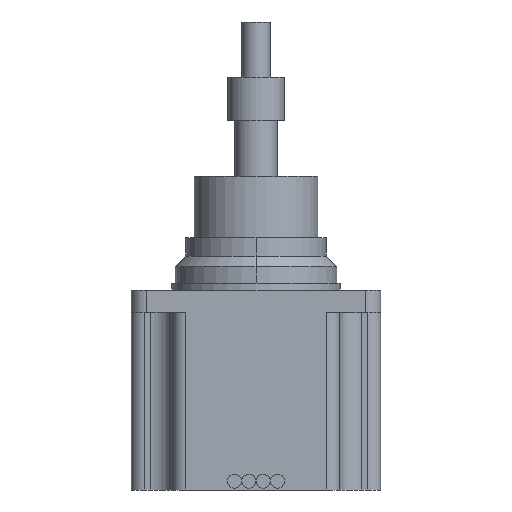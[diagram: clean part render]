
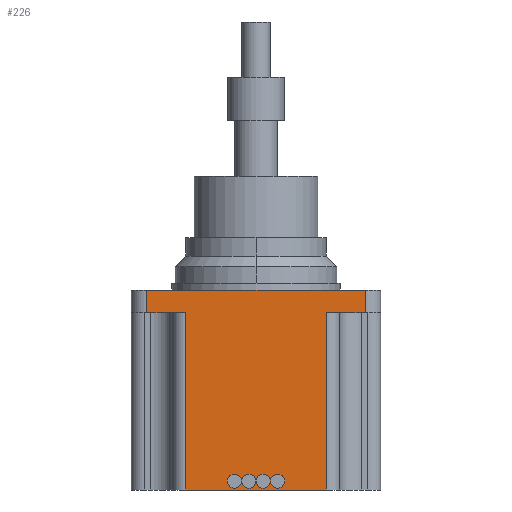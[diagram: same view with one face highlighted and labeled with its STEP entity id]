
A CAD part, front view. The second image highlights one B-rep face of the part: STEP entity #226.
In plain terms, the highlighted planar face has unit normal (0, -1, 0).
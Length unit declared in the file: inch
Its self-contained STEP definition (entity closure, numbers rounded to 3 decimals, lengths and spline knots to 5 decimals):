
#16 = LINE ( 'NONE', #3650, #1397 ) ;
#34 = EDGE_CURVE ( 'NONE', #861, #1085, #3443, .T. ) ;
#73 = VERTEX_POINT ( 'NONE', #1702 ) ;
#111 = ORIENTED_EDGE ( 'NONE', *, *, #1658, .F. ) ;
#164 = LINE ( 'NONE', #2047, #3932 ) ;
#174 = ORIENTED_EDGE ( 'NONE', *, *, #2220, .F. ) ;
#208 = ORIENTED_EDGE ( 'NONE', *, *, #34, .T. ) ;
#213 = CIRCLE ( 'NONE', #3816, 0.0625 ) ;
#226 = ADVANCED_FACE ( 'NONE', ( #1788, #3900, #3009, #816, #894 ), #1769, .T. ) ;
#227 = DIRECTION ( 'NONE',  ( 0., -1., 0. ) ) ;
#269 = DIRECTION ( 'NONE',  ( 0., -1., 0. ) ) ;
#281 = LINE ( 'NONE', #2768, #1536 ) ;
#319 = DIRECTION ( 'NONE',  ( 0., 0., -1. ) ) ;
#357 = EDGE_CURVE ( 'NONE', #2982, #3276, #3270, .T. ) ;
#389 = AXIS2_PLACEMENT_3D ( 'NONE', #1163, #1778, #2365 ) ;
#411 = DIRECTION ( 'NONE',  ( 0., 0., 1. ) ) ;
#428 = ORIENTED_EDGE ( 'NONE', *, *, #1790, .T. ) ;
#432 = EDGE_LOOP ( 'NONE', ( #2562, #2524 ) ) ;
#492 = EDGE_CURVE ( 'NONE', #880, #985, #1698, .T. ) ;
#512 = VERTEX_POINT ( 'NONE', #2327 ) ;
#518 = DIRECTION ( 'NONE',  ( 0., -1., 0. ) ) ;
#526 = CARTESIAN_POINT ( 'NONE',  ( 0.06398, -1.11024, -1.70126 ) ) ;
#548 = CARTESIAN_POINT ( 'NONE',  ( -0.06398, -1.11024, -1.70126 ) ) ;
#572 = EDGE_CURVE ( 'NONE', #3276, #2982, #1276, .T. ) ;
#574 = DIRECTION ( 'NONE',  ( 0., -1., 0. ) ) ;
#679 = CARTESIAN_POINT ( 'NONE',  ( -1.11024, -1.11024, -1.78 ) ) ;
#718 = CIRCLE ( 'NONE', #852, 0.0625 ) ;
#816 = FACE_BOUND ( 'NONE', #432, .T. ) ;
#836 = DIRECTION ( 'NONE',  ( 0., 0., -1. ) ) ;
#844 = VERTEX_POINT ( 'NONE', #1827 ) ;
#852 = AXIS2_PLACEMENT_3D ( 'NONE', #853, #269, #1424 ) ;
#853 = CARTESIAN_POINT ( 'NONE',  ( 0.19193, -1.11024, -1.70126 ) ) ;
#861 = VERTEX_POINT ( 'NONE', #1880 ) ;
#871 = CARTESIAN_POINT ( 'NONE',  ( 0.19193, -1.11024, -1.70126 ) ) ;
#880 = VERTEX_POINT ( 'NONE', #3755 ) ;
#894 = FACE_BOUND ( 'NONE', #2738, .T. ) ;
#901 = ORIENTED_EDGE ( 'NONE', *, *, #3784, .F. ) ;
#937 = VERTEX_POINT ( 'NONE', #2297 ) ;
#957 = DIRECTION ( 'NONE',  ( 0., 0., -1. ) ) ;
#975 = EDGE_CURVE ( 'NONE', #1065, #861, #16, .T. ) ;
#985 = VERTEX_POINT ( 'NONE', #3368 ) ;
#1009 = VERTEX_POINT ( 'NONE', #1517 ) ;
#1047 = VERTEX_POINT ( 'NONE', #3426 ) ;
#1063 = AXIS2_PLACEMENT_3D ( 'NONE', #3136, #3727, #3114 ) ;
#1065 = VERTEX_POINT ( 'NONE', #3498 ) ;
#1085 = VERTEX_POINT ( 'NONE', #3721 ) ;
#1109 = EDGE_CURVE ( 'NONE', #1876, #3705, #3282, .T. ) ;
#1146 = CARTESIAN_POINT ( 'NONE',  ( -0.97244, -1.11024, -1.78 ) ) ;
#1163 = CARTESIAN_POINT ( 'NONE',  ( -0.19193, -1.11024, -1.70126 ) ) ;
#1246 = EDGE_CURVE ( 'NONE', #937, #512, #3685, .T. ) ;
#1247 = ORIENTED_EDGE ( 'NONE', *, *, #1430, .F. ) ;
#1276 = CIRCLE ( 'NONE', #2187, 0.0625 ) ;
#1354 = ORIENTED_EDGE ( 'NONE', *, *, #357, .F. ) ;
#1397 = VECTOR ( 'NONE', #319, 39.37008 ) ;
#1424 = DIRECTION ( 'NONE',  ( 0., 0., -1. ) ) ;
#1430 = EDGE_CURVE ( 'NONE', #1009, #3259, #2828, .T. ) ;
#1432 = DIRECTION ( 'NONE',  ( 0., -1., 0. ) ) ;
#1452 = AXIS2_PLACEMENT_3D ( 'NONE', #526, #1432, #836 ) ;
#1470 = ORIENTED_EDGE ( 'NONE', *, *, #572, .F. ) ;
#1496 = CIRCLE ( 'NONE', #2598, 0.0625 ) ;
#1517 = CARTESIAN_POINT ( 'NONE',  ( 0.97244, -1.11024, -0.2 ) ) ;
#1536 = VECTOR ( 'NONE', #2426, 39.37008 ) ;
#1554 = AXIS2_PLACEMENT_3D ( 'NONE', #2367, #518, #3329 ) ;
#1584 = ORIENTED_EDGE ( 'NONE', *, *, #492, .T. ) ;
#1658 = EDGE_CURVE ( 'NONE', #880, #73, #281, .T. ) ;
#1698 = LINE ( 'NONE', #1146, #2124 ) ;
#1702 = CARTESIAN_POINT ( 'NONE',  ( 0.97244, -1.11024, 0. ) ) ;
#1769 = PLANE ( 'NONE',  #1063 ) ;
#1778 = DIRECTION ( 'NONE',  ( 0., -1., 0. ) ) ;
#1783 = VECTOR ( 'NONE', #3141, 39.37008 ) ;
#1785 = DIRECTION ( 'NONE',  ( 0., 0., -1. ) ) ;
#1788 = FACE_BOUND ( 'NONE', #2580, .T. ) ;
#1790 = EDGE_CURVE ( 'NONE', #1085, #3259, #2147, .T. ) ;
#1808 = VECTOR ( 'NONE', #411, 39.37008 ) ;
#1827 = CARTESIAN_POINT ( 'NONE',  ( 0.19193, -1.11024, -1.76376 ) ) ;
#1876 = VERTEX_POINT ( 'NONE', #3220 ) ;
#1880 = CARTESIAN_POINT ( 'NONE',  ( -0.62613, -1.11024, -1.78 ) ) ;
#1899 = CARTESIAN_POINT ( 'NONE',  ( 1.11024, -1.11024, -0.2 ) ) ;
#1961 = EDGE_CURVE ( 'NONE', #1009, #73, #3195, .T. ) ;
#2047 = CARTESIAN_POINT ( 'NONE',  ( -1.11024, -1.11024, -0.2 ) ) ;
#2117 = EDGE_LOOP ( 'NONE', ( #174, #3429, #208, #428, #1247, #3889, #111, #1584 ) ) ;
#2118 = DIRECTION ( 'NONE',  ( 0., -1., 0. ) ) ;
#2124 = VECTOR ( 'NONE', #2346, 39.37008 ) ;
#2127 = ORIENTED_EDGE ( 'NONE', *, *, #1246, .F. ) ;
#2138 = CARTESIAN_POINT ( 'NONE',  ( -0.06398, -1.11024, -1.63876 ) ) ;
#2147 = LINE ( 'NONE', #3371, #1808 ) ;
#2187 = AXIS2_PLACEMENT_3D ( 'NONE', #3684, #3396, #3331 ) ;
#2220 = EDGE_CURVE ( 'NONE', #1065, #985, #164, .T. ) ;
#2250 = CARTESIAN_POINT ( 'NONE',  ( 0.62613, -1.11024, -0.2 ) ) ;
#2274 = CIRCLE ( 'NONE', #1554, 0.0625 ) ;
#2297 = CARTESIAN_POINT ( 'NONE',  ( -0.19193, -1.11024, -1.76376 ) ) ;
#2327 = CARTESIAN_POINT ( 'NONE',  ( -0.19193, -1.11024, -1.63876 ) ) ;
#2346 = DIRECTION ( 'NONE',  ( 0., 0., -1. ) ) ;
#2365 = DIRECTION ( 'NONE',  ( 0., 0., -1. ) ) ;
#2367 = CARTESIAN_POINT ( 'NONE',  ( -0.19193, -1.11024, -1.70126 ) ) ;
#2426 = DIRECTION ( 'NONE',  ( 1., 0., 0. ) ) ;
#2450 = VECTOR ( 'NONE', #3468, 39.37008 ) ;
#2490 = ORIENTED_EDGE ( 'NONE', *, *, #2967, .F. ) ;
#2524 = ORIENTED_EDGE ( 'NONE', *, *, #1109, .F. ) ;
#2562 = ORIENTED_EDGE ( 'NONE', *, *, #3531, .F. ) ;
#2580 = EDGE_LOOP ( 'NONE', ( #1354, #1470 ) ) ;
#2594 = CARTESIAN_POINT ( 'NONE',  ( 0.97244, -1.11024, -1.78 ) ) ;
#2598 = AXIS2_PLACEMENT_3D ( 'NONE', #871, #2118, #3026 ) ;
#2602 = EDGE_LOOP ( 'NONE', ( #2490, #2127 ) ) ;
#2735 = CARTESIAN_POINT ( 'NONE',  ( 0.06398, -1.11024, -1.63876 ) ) ;
#2738 = EDGE_LOOP ( 'NONE', ( #901, #2944 ) ) ;
#2768 = CARTESIAN_POINT ( 'NONE',  ( -1.11024, -1.11024, 0. ) ) ;
#2789 = CARTESIAN_POINT ( 'NONE',  ( -0.06398, -1.11024, -1.70126 ) ) ;
#2828 = LINE ( 'NONE', #1899, #2450 ) ;
#2944 = ORIENTED_EDGE ( 'NONE', *, *, #2947, .F. ) ;
#2947 = EDGE_CURVE ( 'NONE', #844, #1047, #718, .T. ) ;
#2967 = EDGE_CURVE ( 'NONE', #512, #937, #2274, .T. ) ;
#2982 = VERTEX_POINT ( 'NONE', #2735 ) ;
#3009 = FACE_OUTER_BOUND ( 'NONE', #2117, .T. ) ;
#3026 = DIRECTION ( 'NONE',  ( 0., 0., -1. ) ) ;
#3114 = DIRECTION ( 'NONE',  ( 0., 0., -1. ) ) ;
#3136 = CARTESIAN_POINT ( 'NONE',  ( -1.11024, -1.11024, -1.78 ) ) ;
#3141 = DIRECTION ( 'NONE',  ( 1., 0., 0. ) ) ;
#3195 = LINE ( 'NONE', #2594, #3859 ) ;
#3220 = CARTESIAN_POINT ( 'NONE',  ( -0.06398, -1.11024, -1.76376 ) ) ;
#3259 = VERTEX_POINT ( 'NONE', #2250 ) ;
#3270 = CIRCLE ( 'NONE', #1452, 0.0625 ) ;
#3276 = VERTEX_POINT ( 'NONE', #3891 ) ;
#3282 = CIRCLE ( 'NONE', #3791, 0.0625 ) ;
#3329 = DIRECTION ( 'NONE',  ( 0., 0., -1. ) ) ;
#3331 = DIRECTION ( 'NONE',  ( 0., 0., -1. ) ) ;
#3368 = CARTESIAN_POINT ( 'NONE',  ( -0.97244, -1.11024, -0.2 ) ) ;
#3371 = CARTESIAN_POINT ( 'NONE',  ( 0.62613, -1.11024, -0.2 ) ) ;
#3396 = DIRECTION ( 'NONE',  ( 0., -1., 0. ) ) ;
#3426 = CARTESIAN_POINT ( 'NONE',  ( 0.19193, -1.11024, -1.63876 ) ) ;
#3429 = ORIENTED_EDGE ( 'NONE', *, *, #975, .T. ) ;
#3443 = LINE ( 'NONE', #679, #1783 ) ;
#3468 = DIRECTION ( 'NONE',  ( -1., 0., 0. ) ) ;
#3498 = CARTESIAN_POINT ( 'NONE',  ( -0.62613, -1.11024, -0.2 ) ) ;
#3514 = DIRECTION ( 'NONE',  ( -1., 0., 0. ) ) ;
#3531 = EDGE_CURVE ( 'NONE', #3705, #1876, #213, .T. ) ;
#3650 = CARTESIAN_POINT ( 'NONE',  ( -0.62613, -1.11024, -1.78 ) ) ;
#3684 = CARTESIAN_POINT ( 'NONE',  ( 0.06398, -1.11024, -1.70126 ) ) ;
#3685 = CIRCLE ( 'NONE', #389, 0.0625 ) ;
#3705 = VERTEX_POINT ( 'NONE', #2138 ) ;
#3721 = CARTESIAN_POINT ( 'NONE',  ( 0.62613, -1.11024, -1.78 ) ) ;
#3727 = DIRECTION ( 'NONE',  ( 0., -1., 0. ) ) ;
#3755 = CARTESIAN_POINT ( 'NONE',  ( -0.97244, -1.11024, 0. ) ) ;
#3784 = EDGE_CURVE ( 'NONE', #1047, #844, #1496, .T. ) ;
#3791 = AXIS2_PLACEMENT_3D ( 'NONE', #548, #227, #1785 ) ;
#3816 = AXIS2_PLACEMENT_3D ( 'NONE', #2789, #574, #957 ) ;
#3818 = DIRECTION ( 'NONE',  ( 0., 0., 1. ) ) ;
#3859 = VECTOR ( 'NONE', #3818, 39.37008 ) ;
#3889 = ORIENTED_EDGE ( 'NONE', *, *, #1961, .T. ) ;
#3891 = CARTESIAN_POINT ( 'NONE',  ( 0.06398, -1.11024, -1.76376 ) ) ;
#3900 = FACE_BOUND ( 'NONE', #2602, .T. ) ;
#3932 = VECTOR ( 'NONE', #3514, 39.37008 ) ;
